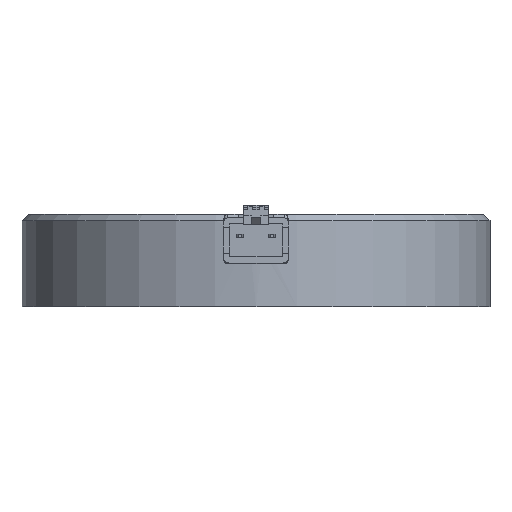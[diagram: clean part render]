
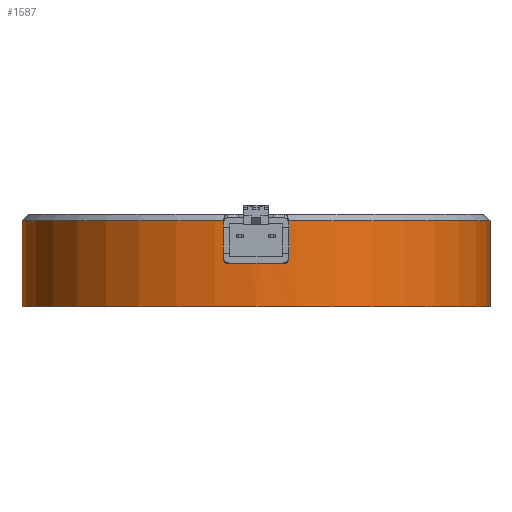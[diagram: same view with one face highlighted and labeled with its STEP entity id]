
A CAD part, front view. The second image highlights one B-rep face of the part: STEP entity #1587.
In plain terms, the highlighted cylindrical face has radius 38 mm (diameter 76 mm), a full revolution.
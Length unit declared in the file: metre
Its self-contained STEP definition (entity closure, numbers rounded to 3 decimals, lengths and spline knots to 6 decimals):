
#1587=ADVANCED_FACE('0:836',(#4616,#4617,#4618),#4619,.T.);
#4616=FACE_OUTER_BOUND('',#9140,.T.);
#4617=FACE_OUTER_BOUND('',#9141,.T.);
#4618=FACE_BOUND('',#9142,.T.);
#4619=CYLINDRICAL_SURFACE('',#9143,0.038);
#9140=EDGE_LOOP('',(#14874));
#9141=EDGE_LOOP('',(#14875));
#9142=EDGE_LOOP('',(#14876));
#9143=AXIS2_PLACEMENT_3D('',#14877,#14878,#14879);
#14874=ORIENTED_EDGE('',*,*,#24834,.T.);
#14875=ORIENTED_EDGE('',*,*,#24817,.F.);
#14876=ORIENTED_EDGE('',*,*,#24797,.T.);
#14877=CARTESIAN_POINT('',(0.,0.063111,0.03928));
#14878=DIRECTION('',(0.,0.,-1.0));
#14879=DIRECTION('',(0.0,-1.0,0.));
#24797=EDGE_CURVE('0:914',#28081,#28081,#28082,.F.);
#24817=EDGE_CURVE('0:911',#28112,#28112,#28113,.T.);
#24834=EDGE_CURVE('0:917',#28138,#28138,#28139,.T.);
#28081=VERTEX_POINT('',#32837);
#28082=B_SPLINE_CURVE_WITH_KNOTS('',3,(#32838,#32839,#32840,#32841,#32842,#32843,#32844,#32845,#32846,#32847,#32848,#32849,#32850,#32851,#32852,#32853,#32854,#32855,#32856,#32857,#32858,#32859,#32860,#32861,#32862,#32863,#32864,#32865,#32866,#32867,#32868,#32869,#32870,#32871,#32872,#32873,#32874,#32875,#32876,#32877,#32878,#32879,#32880,#32881,#32882,#32883,#32884,#32885,#32886,#32887,#32888,#32889,#32890,#32891,#32892,#32893),.UNSPECIFIED.,.T.,.F.,(2,2,2,2,2,2,2,2,2,2,2,2,2,2,2,2,2,2,2,2,2,2,2,2,2,2,2,2,2,2),(-0.000782,0.0,0.000391,0.000782,0.001172,0.001563,0.002345,0.003127,0.003517,0.003908,0.004299,0.00469,0.005081,0.005472,0.005862,0.006253,0.007035,0.007817,0.008207,0.008598,0.008989,0.00938,0.009771,0.010162,0.010552,0.010943,0.011334,0.011725,0.012507,0.012897),.UNSPECIFIED.);
#28112=VERTEX_POINT('',#32923);
#28113=CIRCLE('',#32924,0.038);
#28138=VERTEX_POINT('',#32949);
#28139=CIRCLE('',#32950,0.038);
#32837=CARTESIAN_POINT('',(0.000001,0.025111,0.02811));
#32838=CARTESIAN_POINT('',(-0.000263,0.025111,0.02811));
#32839=CARTESIAN_POINT('',(0.000134,0.025111,0.02811));
#32840=CARTESIAN_POINT('',(0.000264,0.025112,0.028123));
#32841=CARTESIAN_POINT('',(0.000519,0.025115,0.028174));
#32842=CARTESIAN_POINT('',(0.000646,0.025117,0.028213));
#32843=CARTESIAN_POINT('',(0.000888,0.025121,0.028314));
#32844=CARTESIAN_POINT('',(0.001003,0.025124,0.028375));
#32845=CARTESIAN_POINT('',(0.00122,0.025131,0.02852));
#32846=CARTESIAN_POINT('',(0.001323,0.025134,0.028605));
#32847=CARTESIAN_POINT('',(0.0016,0.025144,0.028882));
#32848=CARTESIAN_POINT('',(0.001749,0.025151,0.029105));
#32849=CARTESIAN_POINT('',(0.001948,0.025161,0.029587));
#32850=CARTESIAN_POINT('',(0.002,0.025164,0.02985));
#32851=CARTESIAN_POINT('',(0.002,0.025164,0.030241));
#32852=CARTESIAN_POINT('',(0.001987,0.025163,0.030374));
#32853=CARTESIAN_POINT('',(0.001936,0.025161,0.03063));
#32854=CARTESIAN_POINT('',(0.001898,0.025159,0.030755));
#32855=CARTESIAN_POINT('',(0.001798,0.025154,0.030997));
#32856=CARTESIAN_POINT('',(0.001735,0.025151,0.031114));
#32857=CARTESIAN_POINT('',(0.00159,0.025144,0.031331));
#32858=CARTESIAN_POINT('',(0.001507,0.025141,0.031432));
#32859=CARTESIAN_POINT('',(0.00132,0.025134,0.031618));
#32860=CARTESIAN_POINT('',(0.001219,0.025131,0.031701));
#32861=CARTESIAN_POINT('',(0.001003,0.025124,0.031846));
#32862=CARTESIAN_POINT('',(0.000886,0.025121,0.031908));
#32863=CARTESIAN_POINT('',(0.000643,0.025116,0.032009));
#32864=CARTESIAN_POINT('',(0.000519,0.025115,0.032046));
#32865=CARTESIAN_POINT('',(0.000262,0.025112,0.032097));
#32866=CARTESIAN_POINT('',(0.00013,0.025111,0.03211));
#32867=CARTESIAN_POINT('',(-0.000262,0.025111,0.03211));
#32868=CARTESIAN_POINT('',(-0.000525,0.025114,0.032058));
#32869=CARTESIAN_POINT('',(-0.001006,0.025124,0.031858));
#32870=CARTESIAN_POINT('',(-0.001229,0.025131,0.031709));
#32871=CARTESIAN_POINT('',(-0.001506,0.025141,0.031433));
#32872=CARTESIAN_POINT('',(-0.001591,0.025144,0.03133));
#32873=CARTESIAN_POINT('',(-0.001736,0.025151,0.031112));
#32874=CARTESIAN_POINT('',(-0.001797,0.025154,0.030997));
#32875=CARTESIAN_POINT('',(-0.001898,0.025159,0.030756));
#32876=CARTESIAN_POINT('',(-0.001936,0.025161,0.030628));
#32877=CARTESIAN_POINT('',(-0.001987,0.025163,0.030373));
#32878=CARTESIAN_POINT('',(-0.002,0.025164,0.030243));
#32879=CARTESIAN_POINT('',(-0.002,0.025164,0.029979));
#32880=CARTESIAN_POINT('',(-0.001987,0.025163,0.029848));
#32881=CARTESIAN_POINT('',(-0.001936,0.025161,0.029593));
#32882=CARTESIAN_POINT('',(-0.001898,0.025159,0.029466));
#32883=CARTESIAN_POINT('',(-0.001797,0.025154,0.029224));
#32884=CARTESIAN_POINT('',(-0.001736,0.025151,0.029109));
#32885=CARTESIAN_POINT('',(-0.001591,0.025144,0.028891));
#32886=CARTESIAN_POINT('',(-0.001507,0.025141,0.028788));
#32887=CARTESIAN_POINT('',(-0.001322,0.025134,0.028604));
#32888=CARTESIAN_POINT('',(-0.001221,0.025131,0.028521));
#32889=CARTESIAN_POINT('',(-0.001003,0.025124,0.028375));
#32890=CARTESIAN_POINT('',(-0.000886,0.025121,0.028313));
#32891=CARTESIAN_POINT('',(-0.000525,0.025114,0.028163));
#32892=CARTESIAN_POINT('',(-0.000263,0.025111,0.02811));
#32893=CARTESIAN_POINT('',(0.000134,0.025111,0.02811));
#32923=CARTESIAN_POINT('',(0.,0.025111,0.01911));
#32924=AXIS2_PLACEMENT_3D('',#39512,#39513,#39514);
#32949=CARTESIAN_POINT('',(0.,0.025111,0.03311));
#32950=AXIS2_PLACEMENT_3D('',#39539,#39540,#39541);
#39512=CARTESIAN_POINT('',(0.,0.063111,0.01911));
#39513=DIRECTION('',(0.,0.,-1.0));
#39514=DIRECTION('',(0.0,-1.0,0.));
#39539=CARTESIAN_POINT('',(0.,0.063111,0.03311));
#39540=DIRECTION('',(0.,0.,-1.0));
#39541=DIRECTION('',(0.0,-1.0,0.));
